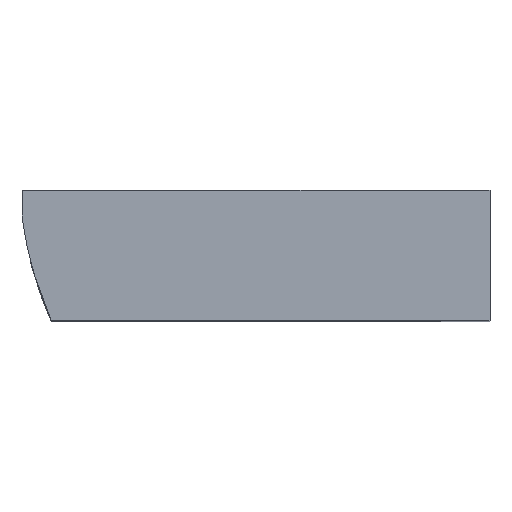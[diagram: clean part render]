
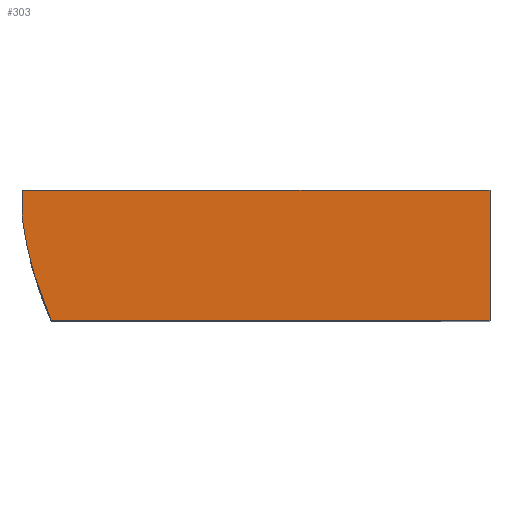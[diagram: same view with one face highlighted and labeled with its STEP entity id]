
A CAD part, top view. The second image highlights one B-rep face of the part: STEP entity #303.
In plain terms, the highlighted planar face has unit normal (0, 0, 1).
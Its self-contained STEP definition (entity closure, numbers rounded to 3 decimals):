
#31=LINE('',#524,#65);
#34=LINE('',#530,#68);
#36=LINE('',#534,#70);
#39=LINE('',#540,#73);
#40=LINE('',#542,#74);
#41=LINE('',#543,#75);
#65=VECTOR('',#367,10.);
#68=VECTOR('',#372,10.);
#70=VECTOR('',#376,10.);
#73=VECTOR('',#381,10.);
#74=VECTOR('',#382,10.);
#75=VECTOR('',#383,10.);
#91=PLANE('',#331);
#107=FACE_OUTER_BOUND('',#123,.T.);
#123=EDGE_LOOP('',(#253,#254,#255,#256,#257,#258,#259));
#135=B_SPLINE_CURVE_WITH_KNOTS('',3,(#507,#508,#509,#510,#511,#512,#513),
 .UNSPECIFIED.,.F.,.F.,(4,3,4),(-0.835,-0.609,-0.262),
 .UNSPECIFIED.);
#153=VERTEX_POINT('',#499);
#154=VERTEX_POINT('',#506);
#156=VERTEX_POINT('',#523);
#158=VERTEX_POINT('',#529);
#159=VERTEX_POINT('',#533);
#161=VERTEX_POINT('',#539);
#162=VERTEX_POINT('',#541);
#186=EDGE_CURVE('',#154,#153,#135,.F.);
#189=EDGE_CURVE('',#156,#154,#31,.F.);
#192=EDGE_CURVE('',#158,#156,#34,.F.);
#194=EDGE_CURVE('',#159,#158,#36,.F.);
#197=EDGE_CURVE('',#153,#161,#39,.F.);
#198=EDGE_CURVE('',#161,#162,#40,.T.);
#199=EDGE_CURVE('',#162,#159,#41,.F.);
#253=ORIENTED_EDGE('',*,*,#197,.T.);
#254=ORIENTED_EDGE('',*,*,#198,.T.);
#255=ORIENTED_EDGE('',*,*,#199,.T.);
#256=ORIENTED_EDGE('',*,*,#194,.T.);
#257=ORIENTED_EDGE('',*,*,#192,.T.);
#258=ORIENTED_EDGE('',*,*,#189,.T.);
#259=ORIENTED_EDGE('',*,*,#186,.T.);
#303=ADVANCED_FACE('',(#107),#91,.T.);
#331=AXIS2_PLACEMENT_3D('',#538,#379,#380);
#367=DIRECTION('',(0.,1.,0.));
#372=DIRECTION('',(1.,0.,0.));
#376=DIRECTION('',(1.,0.,0.));
#379=DIRECTION('center_axis',(0.,0.,
1.));
#380=DIRECTION('ref_axis',(-1.,0.,0.));
#381=DIRECTION('',(-1.,0.,0.));
#382=DIRECTION('',(0.,1.,0.));
#383=DIRECTION('',(1.,0.,0.));
#499=CARTESIAN_POINT('',(-252.773,197.696,-9.567));
#506=CARTESIAN_POINT('',(-253.916,201.739,-9.567));
#507=CARTESIAN_POINT('Ctrl Pts',(-252.773,197.696,-9.567));
#508=CARTESIAN_POINT('Ctrl Pts',(-252.998,198.205,-9.567));
#509=CARTESIAN_POINT('Ctrl Pts',(-253.194,198.723,-9.567));
#510=CARTESIAN_POINT('Ctrl Pts',(-253.362,199.255,-9.567));
#511=CARTESIAN_POINT('Ctrl Pts',(-253.62,200.07,-9.567));
#512=CARTESIAN_POINT('Ctrl Pts',(-253.804,200.9,-9.567));
#513=CARTESIAN_POINT('Ctrl Pts',(-253.916,201.739,-9.567));
#523=CARTESIAN_POINT('',(-253.916,202.789,-9.567));
#524=CARTESIAN_POINT('',(-253.916,201.564,-9.567));
#529=CARTESIAN_POINT('',(-244.795,202.789,-9.567));
#530=CARTESIAN_POINT('',(-244.817,202.789,-9.567));
#533=CARTESIAN_POINT('',(-237.656,202.789,-9.567));
#534=CARTESIAN_POINT('',(-241.247,202.789,-9.567));
#538=CARTESIAN_POINT('Origin',(-244.838,200.24,-9.567));
#539=CARTESIAN_POINT('',(-235.656,197.696,-9.567));
#540=CARTESIAN_POINT('',(-240.247,197.696,-9.567));
#541=CARTESIAN_POINT('',(-235.656,202.789,-9.567));
#542=CARTESIAN_POINT('',(-235.656,197.596,-9.567));
#543=CARTESIAN_POINT('',(-241.247,202.789,-9.567));
